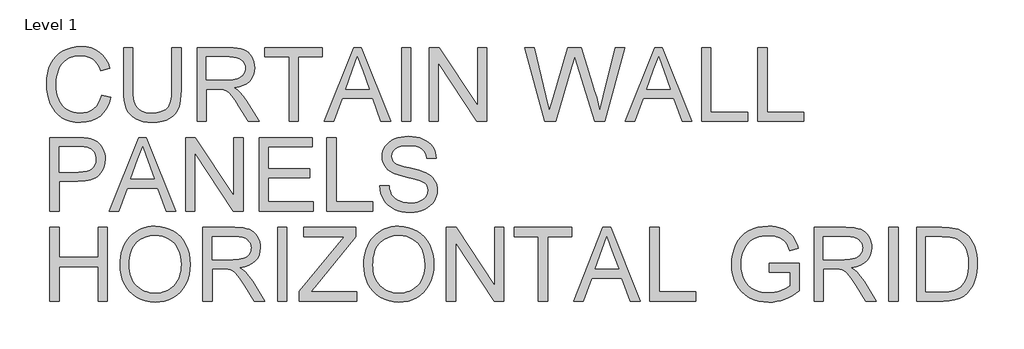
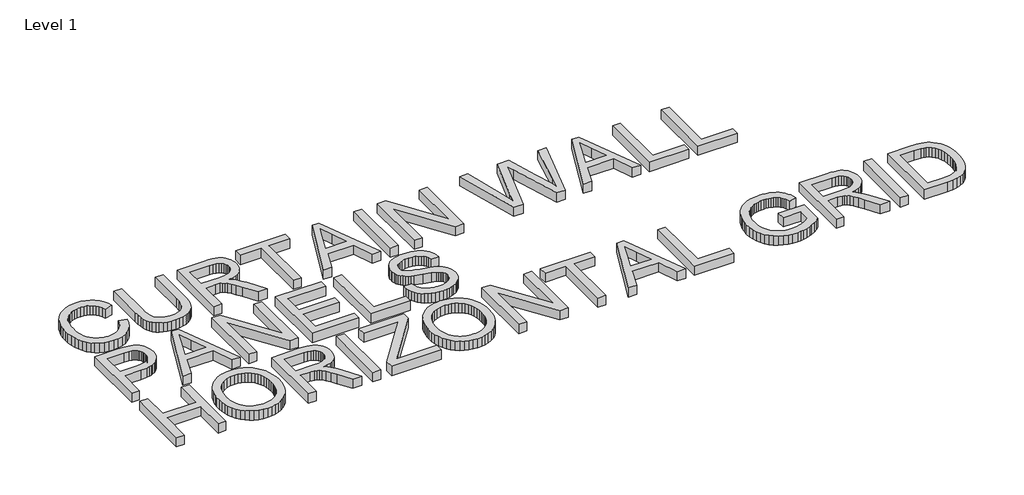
# One storey, part 9 of 27: 1 proxy.
"""IFC4 building model written with IfcOpenShell, lengths in millimetres."""

from ifc_helpers import new_model, si_unit, origin, origin_with_axes, place, context, project, spatial, polyline, outline, extrude, element, save

model = new_model("IFC4")

# Units and contexts
model_context = context("Model", 3, world=origin())
ifc_project = project(units=[si_unit("LENGTHUNIT", "METRE", prefix="MILLI")], contexts=[model_context])

# Site, building, storey
site = spatial("IfcSite", under=ifc_project)
building = spatial("IfcBuilding", under=site)
storey = spatial("IfcBuildingStorey", under=building, Name="Level 1", Elevation=0.0)

# Proxy
placement = place(None, origin())
element("IfcBuildingElementProxy", 1, Name="1000mm Arial", ObjectType="1000mm Arial", at=placement, inside=storey, context=model_context, shape_type="SweptSolid", body=[
    extrude(outline(polyline([(-28231.7417304, -17252.3211729), (-28109.317488, -17283.8836729), (-28133.5423045, -17360.017743), (-28165.8071897, -17426.5425862), (-28206.1121436, -17483.4582023), (-28254.457166, -17530.7645914), (-28309.7513185, -17567.953645), (-28370.9036623, -17594.5172548), (-28437.9141973, -17610.4554206), (-28510.7829236, -17615.7681426), (-28585.4375016, -17611.7481082), (-28652.7842849, -17599.6880052), (-28712.8232734, -17579.5878336), (-28765.5544672, -17551.4475933), (-28811.7026679, -17515.6857266), (-28851.9926774, -17472.7206757), (-28886.4244956, -17422.5524406), (-28914.9981225, -17365.1810213), (-28937.4370873, -17303.0871826), (-28953.4649194, -17238.751689), (-28963.0816186, -17172.1745405), (-28966.287185, -17103.3557372), (-28962.6631763, -17029.5156272), (-28951.7911504, -16960.5473802), (-28933.6711072, -16896.4509965), (-28908.3030467, -16837.2264759), (-28876.2548548, -16783.8526744), (-28838.0944175, -16737.3084479), (-28793.8217346, -16697.5937966), (-28743.4368062, -16664.7087202), (-28688.6507622, -16638.9222175), (-28631.1747323, -16620.503287), (-28571.0087167, -16609.4519287), (-28508.1527153, -16605.7681426), (-28438.1308906, -16610.5353952), (-28373.9224241, -16624.837153), (-28315.5273158, -16648.673416), (-28262.9455657, -16682.0441842), (-28217.0439469, -16724.0677401), (-28178.6892328, -16773.862366), (-28147.8814233, -16831.4280621), (-28124.6205183, -16896.7648282), (-28247.0447607, -16925.9362297), (-28266.3229923, -16877.7929561), (-28289.4867588, -16836.65859), (-28316.5360605, -16802.5331313), (-28347.4708971, -16775.4165801), (-28382.4706012, -16754.7559947), (-28421.7145051, -16739.9984337), (-28465.2026088, -16731.1438972), (-28512.9349123, -16728.192385), (-28567.8554556, -16731.465201), (-28618.0834681, -16741.2836492), (-28663.6189499, -16757.6477294), (-28704.4619009, -16780.5574418), (-28740.0967405, -16808.981625), (-28770.0078881, -16841.8891179), (-28794.1953437, -16879.2799205), (-28812.6591073, -16921.1540327), (-28826.3107852, -16965.6135202), (-28836.0619838, -17010.7604484), (-28841.9127029, -17056.5948175), (-28843.8629426, -17103.1166274), (-28841.5540381, -17161.5789854), (-28834.6273247, -17216.2155857), (-28823.0828023, -17267.0264285), (-28806.920471, -17314.0115138), (-28785.8788043, -17356.2368186), (-28759.6962759, -17392.7683201), (-28728.3728857, -17423.6060184), (-28691.9086338, -17448.7499134), (-28652.0744275, -17468.2597826), (-28610.6411741, -17482.1954034), (-28567.6088735, -17490.556776), (-28522.9775259, -17493.3439001), (-28469.7531681, -17489.5480313), (-28420.7879544, -17478.1604247), (-28376.0818849, -17459.1810805), (-28335.6349596, -17432.6099986), (-28300.4036179, -17398.5667339), (-28271.3442991, -17357.1708414), (-28248.4570033, -17308.4223211), (-28231.7417304, -17252.3211729)])), origin_with_axes(), (0.0, 0.0, 1.0), 150.0),
    extrude(outline(polyline([(-27298.256882, -16621.0711729), (-27175.8326395, -16621.0711729), (-27175.8326395, -17186.0877448), (-27177.9099063, -17256.0497921), (-27184.1417068, -17318.4051572), (-27194.5280408, -17373.1538403), (-27209.0689085, -17420.2958414), (-27229.0196365, -17461.6170121), (-27255.6355515, -17498.9032041), (-27288.9166535, -17532.1544174), (-27328.8629426, -17561.370652), (-27375.5192517, -17585.1695541), (-27428.9304141, -17602.1687699), (-27489.0964298, -17612.3682994), (-27556.0172986, -17615.7681426), (-27621.2868151, -17612.8091582), (-27680.3245311, -17603.9322051), (-27733.1304467, -17589.1372832), (-27779.7045619, -17568.4243926), (-27820.0543488, -17542.0998927), (-27854.1872797, -17510.470143), (-27882.1033545, -17473.5351436), (-27903.8025732, -17431.2948944), (-27920.0695151, -17382.2997921), (-27931.6887593, -17325.100233), (-27938.6603058, -17259.6962172), (-27940.9841547, -17186.0877448), (-27940.9841547, -16621.0711729), (-27818.5599123, -16621.0711729), (-27818.5599123, -17181.7837676), (-27817.0505313, -17240.9709272), (-27812.5223886, -17291.8041866), (-27804.975484, -17334.2835456), (-27794.4098176, -17368.4090043), (-27780.1678372, -17396.646383), (-27761.5919909, -17421.4615019), (-27738.6822785, -17442.8543612), (-27711.4387001, -17460.8249607), (-27680.3843086, -17475.0519967), (-27646.0421566, -17485.2141653), (-27608.4122442, -17491.3114664), (-27567.4945713, -17493.3439001), (-27500.020761, -17489.3238658), (-27442.9781177, -17477.2637628), (-27396.3666417, -17457.1635912), (-27376.9725913, -17444.0984796), (-27360.1863327, -17429.0233509), (-27345.6716177, -17411.0901122), (-27333.092198, -17389.450671), (-27313.7392446, -17335.0531804), (-27302.1274726, -17265.8308793), (-27298.256882, -17181.7837676), (-27298.256882, -16621.0711729)])), origin_with_axes(), (0.0, 0.0, 1.0), 150.0),
    extrude(outline(polyline([(-26961.5902153, -17600.4651122), (-26961.5902153, -16621.0711729), (-26539.5613327, -16621.0711729), (-26478.984347, -16622.7225252), (-26426.1335983, -16627.6765824), (-26381.0090866, -16635.9333444), (-26343.6108119, -16647.4928111), (-26311.7643689, -16663.2441724), (-26283.2953526, -16684.0766179), (-26258.2037629, -16709.9901478), (-26236.4895998, -16740.9847619), (-26218.9673312, -16775.3941635), (-26206.451425, -16811.5520559), (-26198.9418814, -16849.4584391), (-26196.4387001, -16889.113313), (-26200.5857616, -16939.4160474), (-26213.0269459, -16985.5941369), (-26233.762253, -17027.6475815), (-26262.7916831, -17065.5763812), (-26300.4888451, -17098.1700424), (-26347.2273483, -17124.2180715), (-26403.0071927, -17143.7204685), (-26467.8283782, -17156.6772335), (-26427.4785912, -17183.0390943), (-26398.2474123, -17209.0422903), (-26348.0941215, -17268.5208651), (-26299.0168251, -17335.0531804), (-26135.7047986, -17600.4651122), (-26277.9751585, -17600.4651122), (-26405.4207077, -17397.4608509), (-26456.4108829, -17319.98926), (-26497.4779994, -17263.081116), (-26531.7005964, -17223.8969896), (-26562.1572134, -17199.5974513), (-26590.9998389, -17185.3405265), (-26620.3804615, -17176.284241), (-26691.3960865, -17171.9802638), (-26839.1659729, -17171.9802638), (-26839.1659729, -17600.4651122), (-26961.5902153, -17600.4651122)]), holes=[polyline([(-26839.1659729, -17049.5560213), (-26565.1460865, -17049.5560213), (-26486.4490576, -17045.2221553), (-26425.3863801, -17032.2205573), (-26400.8327875, -17022.2526655), (-26379.4175117, -17009.6844541), (-26361.1405526, -16994.5159231), (-26346.0019104, -16976.7470725), (-26334.1286119, -16957.2521476), (-26325.6476845, -16936.905394), (-26320.559128, -16915.7068115), (-26318.8629426, -16893.6564001), (-26322.0983977, -16862.3479543), (-26331.8047631, -16833.9387155), (-26347.9820388, -16808.4286835), (-26370.6302248, -16785.8178585), (-26400.2723738, -16767.3017896), (-26437.4315387, -16754.0760261), (-26482.1077194, -16746.140568), (-26534.300916, -16743.4954153), (-26839.1659729, -16743.4954153), (-26839.1659729, -17049.5560213)])]), origin_with_axes(), (0.0, 0.0, 1.0), 150.0),
    extrude(outline(polyline([(-25737.347791, -17600.4651122), (-25737.347791, -16743.4954153), (-26058.7114274, -16743.4954153), (-26058.7114274, -16621.0711729), (-25293.5599123, -16621.0711729), (-25293.5599123, -16743.4954153), (-25614.9235486, -16743.4954153), (-25614.9235486, -17600.4651122), (-25737.347791, -17600.4651122)])), origin_with_axes(), (0.0, 0.0, 1.0), 150.0),
    extrude(outline(polyline([(-25269.8880373, -17600.4651122), (-24878.943435, -16621.0711729), (-24774.691541, -16621.0711729), (-24383.7469388, -17600.4651122), (-24513.1053668, -17600.4651122), (-24625.2478857, -17294.4045062), (-25028.6262001, -17294.4045062), (-25140.5296092, -17600.4651122), (-25269.8880373, -17600.4651122)]), holes=[polyline([(-24983.6735486, -17171.9802638), (-24669.9614274, -17171.9802638), (-24758.1929615, -16931.1966463), (-24826.817488, -16743.4954153), (-24887.7904994, -16910.1549797), (-24983.6735486, -17171.9802638)])]), origin_with_axes(), (0.0, 0.0, 1.0), 150.0),
    extrude(outline(polyline([(-24237.6508213, -17600.4651122), (-24237.6508213, -16621.0711729), (-24115.2265789, -16621.0711729), (-24115.2265789, -17600.4651122), (-24237.6508213, -17600.4651122)])), origin_with_axes(), (0.0, 0.0, 1.0), 150.0),
    extrude(outline(polyline([(-23870.3780941, -17600.4651122), (-23870.3780941, -16621.0711729), (-23739.3458971, -16621.0711729), (-23227.6508213, -17396.9826312), (-23227.6508213, -16621.0711729), (-23105.2265789, -16621.0711729), (-23105.2265789, -17600.4651122), (-23236.2587759, -17600.4651122), (-23747.9538516, -16824.3145441), (-23747.9538516, -17600.4651122), (-23870.3780941, -17600.4651122)])), origin_with_axes(), (0.0, 0.0, 1.0), 150.0),
    extrude(outline(polyline([(-22333.1408782, -17600.4651122), (-22600.2265789, -16621.0711729), (-22473.9765789, -16621.0711729), (-22319.0333971, -17264.754885), (-22271.2114274, -17463.4551691), (-22220.0419198, -17287.7094304), (-22025.8847229, -16621.0711729), (-21843.9221282, -16621.0711729), (-21702.8473176, -17104.3121766), (-21670.6422098, -17193.9185924), (-21642.4123034, -17283.644563), (-21618.1575981, -17373.4900886), (-21597.8780941, -17463.4551691), (-21551.4907835, -17270.4935213), (-21395.1129426, -16621.0711729), (-21268.8629426, -16621.0711729), (-21536.1877532, -17600.4651122), (-21666.9808403, -17600.4651122), (-21901.7867115, -16844.877991), (-21934.5447607, -16739.4305479), (-21971.3676774, -16866.3978774), (-22185.3709918, -17600.4651122), (-22333.1408782, -17600.4651122)])), origin_with_axes(), (0.0, 0.0, 1.0), 150.0),
    extrude(outline(polyline([(-21260.4940979, -17600.4651122), (-20869.5494956, -16621.0711729), (-20765.2976016, -16621.0711729), (-20374.3529994, -17600.4651122), (-20503.7114274, -17600.4651122), (-20615.8539463, -17294.4045062), (-21019.2322607, -17294.4045062), (-21131.1356698, -17600.4651122), (-21260.4940979, -17600.4651122)]), holes=[polyline([(-20974.2796092, -17171.9802638), (-20660.567488, -17171.9802638), (-20748.7990221, -16931.1966463), (-20817.4235486, -16743.4954153), (-20878.39656, -16910.1549797), (-20974.2796092, -17171.9802638)])]), origin_with_axes(), (0.0, 0.0, 1.0), 150.0),
    extrude(outline(polyline([(-20243.5599123, -17600.4651122), (-20243.5599123, -16621.0711729), (-20121.1356698, -16621.0711729), (-20121.1356698, -17478.0408698), (-19631.4387001, -17478.0408698), (-19631.4387001, -17600.4651122), (-20243.5599123, -17600.4651122)])), origin_with_axes(), (0.0, 0.0, 1.0), 150.0),
    extrude(outline(polyline([(-19493.7114274, -17600.4651122), (-19493.7114274, -16621.0711729), (-19371.287185, -16621.0711729), (-19371.287185, -17478.0408698), (-18881.5902153, -17478.0408698), (-18881.5902153, -17600.4651122), (-19493.7114274, -17600.4651122)])), origin_with_axes(), (0.0, 0.0, 1.0), 150.0),
    extrude(outline(polyline([(-28920.3780941, -18797.4348092), (-28920.3780941, -17818.0408698), (-28557.4093441, -17818.0408698), (-28472.8840126, -17820.3721908), (-28411.0741168, -17827.3661539), (-28377.0084356, -17834.7113096), (-28345.8270169, -17844.7912841), (-28317.5298608, -17857.6060776), (-28292.1169672, -17873.1556899), (-28269.3193376, -17891.761425), (-28248.8679733, -17913.7445867), (-28230.7628745, -17939.105175), (-28215.004041, -17967.8431899), (-28202.2415529, -17999.0096642), (-28193.1254899, -18031.6556307), (-28187.6558521, -18065.7810894), (-28185.8326395, -18101.3860403), (-28190.756808, -18161.5072228), (-28205.5293133, -18216.8163196), (-28230.1501555, -18267.3133308), (-28264.6193346, -18312.9982562), (-28286.2980049, -18333.2852324), (-28311.9406681, -18350.8672784), (-28341.5473242, -18365.7443943), (-28375.1179733, -18377.9165801), (-28412.6526154, -18387.3838356), (-28454.1512504, -18394.146161), (-28549.0404994, -18399.5560213), (-28797.9538516, -18399.5560213), (-28797.9538516, -18797.4348092), (-28920.3780941, -18797.4348092)]), holes=[polyline([(-28797.9538516, -18277.1317789), (-28541.8672039, -18277.1317789), (-28482.9864037, -18274.3222382), (-28433.3113327, -18265.893616), (-28392.8419909, -18251.8459124), (-28361.5783782, -18232.1791274), (-28338.2502236, -18207.4163137), (-28321.587256, -18178.0805242), (-28311.5894755, -18144.1717588), (-28308.256882, -18105.6900176), (-28310.222066, -18077.1163907), (-28316.1176182, -18050.6947524), (-28325.9435386, -18026.4251028), (-28339.699827, -18004.3074418), (-28356.6542097, -17985.059099), (-28376.0744127, -17969.3974039), (-28397.960436, -17957.3223566), (-28422.3122797, -17948.8339569), (-28469.5364748, -17942.5573234), (-28544.7365221, -17940.4651122), (-28797.9538516, -17940.4651122), (-28797.9538516, -18277.1317789)])]), origin_with_axes(), (0.0, 0.0, 1.0), 150.0),
    extrude(outline(polyline([(-28131.5547039, -18797.4348092), (-27740.6101016, -17818.0408698), (-27636.3582077, -17818.0408698), (-27245.4136054, -18797.4348092), (-27374.7720335, -18797.4348092), (-27486.9145524, -18491.3742032), (-27890.2928668, -18491.3742032), (-28002.1962759, -18797.4348092), (-28131.5547039, -18797.4348092)]), holes=[polyline([(-27845.3402153, -18368.9499607), (-27531.6280941, -18368.9499607), (-27619.8596282, -18128.1663433), (-27688.4841547, -17940.4651122), (-27749.457166, -18107.1246766), (-27845.3402153, -18368.9499607)])]), origin_with_axes(), (0.0, 0.0, 1.0), 150.0),
    extrude(outline(polyline([(-27114.6205183, -18797.4348092), (-27114.6205183, -17818.0408698), (-26983.5883213, -17818.0408698), (-26471.8932456, -18593.9523282), (-26471.8932456, -17818.0408698), (-26349.4690032, -17818.0408698), (-26349.4690032, -18797.4348092), (-26480.5012001, -18797.4348092), (-26992.1962759, -18021.284241), (-26992.1962759, -18797.4348092), (-27114.6205183, -18797.4348092)])), origin_with_axes(), (0.0, 0.0, 1.0), 150.0),
    extrude(outline(polyline([(-26135.2265789, -18797.4348092), (-26135.2265789, -17818.0408698), (-25431.287185, -17818.0408698), (-25431.287185, -17940.4651122), (-26012.8023365, -17940.4651122), (-26012.8023365, -18231.222688), (-25461.8932456, -18231.222688), (-25461.8932456, -18353.6469304), (-26012.8023365, -18353.6469304), (-26012.8023365, -18675.0105668), (-25415.9841547, -18675.0105668), (-25415.9841547, -18797.4348092), (-26135.2265789, -18797.4348092)])), origin_with_axes(), (0.0, 0.0, 1.0), 150.0),
    extrude(outline(polyline([(-25232.347791, -18797.4348092), (-25232.347791, -17818.0408698), (-25109.9235486, -17818.0408698), (-25109.9235486, -18675.0105668), (-24620.2265789, -18675.0105668), (-24620.2265789, -18797.4348092), (-25232.347791, -18797.4348092)])), origin_with_axes(), (0.0, 0.0, 1.0), 150.0),
    extrude(outline(polyline([(-24528.4083971, -18460.7681426), (-24405.9841547, -18460.7681426), (-24400.3800176, -18496.4029822), (-24391.9364511, -18528.7052283), (-24380.6534551, -18557.6748808), (-24366.5310297, -18583.3119399), (-24348.8518453, -18606.1319861), (-24326.8985723, -18626.6505999), (-24300.6712108, -18644.8677815), (-24270.1697607, -18660.7835308), (-24236.5150496, -18673.7029348), (-24200.8279047, -18682.9310805), (-24163.1083261, -18688.467968), (-24123.3563138, -18690.3135971), (-24055.1502295, -18684.7244044), (-24024.2303372, -18677.7379135), (-23995.4325448, -18667.9568263), (-23969.4667097, -18655.7323353), (-23947.0426892, -18641.4156331), (-23928.1604834, -18625.0067197), (-23912.8200922, -18606.5055952), (-23900.9467938, -18586.7117831), (-23892.4658663, -18566.4248069), (-23887.3773099, -18545.6446666), (-23885.6811244, -18524.3713622), (-23890.7622087, -18483.393912), (-23906.0054615, -18447.9757657), (-23918.8277271, -18432.2617653), (-23936.9701869, -18417.7582586), (-23960.4328408, -18404.4652454), (-23989.2156888, -18392.3827259), (-24053.8650141, -18373.1642718), (-24167.4720808, -18345.6367505), (-24284.4864629, -18314.7019139), (-24327.1899874, -18299.7949092), (-24359.3577342, -18285.2615138), (-24392.0485338, -18265.7591167), (-24420.3008569, -18244.0748424), (-24444.1147033, -18220.2086906), (-24463.4900732, -18194.1606615), (-24478.5016884, -18166.1997536), (-24489.2242707, -18136.5949655), (-24495.65782, -18105.3462971), (-24497.8023365, -18072.4537486), (-24495.1497116, -18035.9969689), (-24487.191837, -18000.7506828), (-24473.9287126, -17966.7148903), (-24455.3603384, -17933.8895914), (-24431.6959356, -17903.6123069), (-24403.1447252, -17877.2205573), (-24369.7067074, -17854.7143428), (-24331.381882, -17836.0936634), (-24289.4629366, -17821.5004904), (-24245.242559, -17811.0767955), (-24198.7207491, -17804.8225785), (-24149.897507, -17802.7378395), (-24096.6357882, -17804.9197169), (-24046.6020524, -17811.465349), (-23999.7962996, -17822.3747358), (-23956.2185297, -17837.6478774), (-23916.6757385, -17857.1502744), (-23881.9749217, -17880.7474276), (-23852.1160794, -17908.4393369), (-23827.0992115, -17940.2260024), (-23807.1185948, -17975.1808734), (-23792.368506, -18012.3773992), (-23782.8489452, -18051.8155798), (-23778.5599123, -18093.4954153), (-23900.9841547, -18093.4954153), (-23909.173667, -18054.4308438), (-23923.4604804, -18020.4473566), (-23943.844595, -17991.5449536), (-23970.3260107, -17967.723635), (-24003.3978917, -17949.1029555), (-24043.5534018, -17935.8024702), (-24090.7925413, -17927.822179), (-24145.11531, -17925.1620819), (-24201.1716251, -17927.7922903), (-24249.0683166, -17935.6829153), (-24288.8053846, -17948.8339569), (-24320.3828289, -17967.2454153), (-24344.4432574, -17989.3780206), (-24361.6292778, -18013.6925033), (-24371.94089, -18040.1888634), (-24375.3780941, -18068.8671009), (-24372.9421625, -18093.5402484), (-24365.6343677, -18115.9119636), (-24353.4547098, -18135.9822465), (-24336.4031888, -18153.7510971), (-24309.5631083, -18170.5784527), (-24267.3004426, -18187.5851407), (-24209.6151916, -18204.771161), (-24136.5073554, -18222.1365138), (-24001.529846, -18254.9543405), (-23954.0366523, -18269.7940954), (-23919.8738327, -18283.5877448), (-23882.3410587, -18304.4949122), (-23850.0836457, -18328.0023992), (-23823.1015937, -18354.1102058), (-23801.3949028, -18382.8183319), (-23784.7095187, -18413.9773341), (-23772.7913872, -18447.4377685), (-23765.6405083, -18483.1996352), (-23763.256882, -18521.2629342), (-23765.999173, -18559.5578709), (-23774.2260463, -18596.7319801), (-23787.9375016, -18632.785262), (-23807.1335391, -18667.7177164), (-23831.4779106, -18700.1768783), (-23860.6343677, -18728.8102827), (-23894.6029106, -18753.6179295), (-23933.3835391, -18774.5998187), (-23975.8479538, -18791.2852028), (-24020.867855, -18803.2033343), (-24068.4432426, -18810.3542132), (-24118.5741168, -18812.7378395), (-24181.1984806, -18810.1674086), (-24238.5175945, -18802.456116), (-24290.5314588, -18789.6039617), (-24337.2400732, -18771.6109456), (-24378.9273809, -18748.447179), (-24415.8773247, -18720.0827732), (-24448.0899046, -18686.5177283), (-24475.5651206, -18647.7520441), (-24497.6977259, -18605.0410474), (-24513.8824738, -18559.6400649), (-24524.1193642, -18511.5490966), (-24528.4083971, -18460.7681426)])), origin_with_axes(), (0.0, 0.0, 1.0), 150.0),
    extrude(outline(polyline([(-28920.3780941, -19994.4045062), (-28920.3780941, -19015.0105668), (-28797.9538516, -19015.0105668), (-28797.9538516, -19412.8893547), (-28277.6508213, -19412.8893547), (-28277.6508213, -19015.0105668), (-28155.2265789, -19015.0105668), (-28155.2265789, -19994.4045062), (-28277.6508213, -19994.4045062), (-28277.6508213, -19535.3135971), (-28797.9538516, -19535.3135971), (-28797.9538516, -19994.4045062), (-28920.3780941, -19994.4045062)])), origin_with_axes(), (0.0, 0.0, 1.0), 150.0),
    extrude(outline(polyline([(-27986.8932456, -19517.6194683), (-27984.8533397, -19458.5331831), (-27978.733622, -19402.7421305), (-27968.5340925, -19350.2463105), (-27954.2547513, -19301.045723), (-27935.8955982, -19255.1403682), (-27913.4566334, -19212.530246), (-27886.9378567, -19173.2153564), (-27856.3392683, -19137.1956994), (-27822.516433, -19104.9719112), (-27786.3249158, -19077.0446281), (-27747.7647166, -19053.4138501), (-27706.8358356, -19034.0795772), (-27663.5382725, -19019.0418094), (-27617.8720275, -19008.3005467), (-27569.8371006, -19001.855789), (-27519.4334918, -18999.7075365), (-27453.5437842, -19003.7425152), (-27390.9717257, -19015.8474513), (-27331.7173164, -19036.0223447), (-27275.7805562, -19064.2671956), (-27224.7306035, -19099.730175), (-27180.1366168, -19141.5594541), (-27141.998596, -19189.7550329), (-27110.316541, -19244.3169115), (-27085.4192281, -19304.0047074), (-27067.6354331, -19367.5780384), (-27056.9651561, -19435.0369044), (-27053.4083971, -19506.3813054), (-27057.1519607, -19578.6672015), (-27068.3826514, -19647.0376738), (-27087.1004692, -19711.4927223), (-27113.3054141, -19772.0323471), (-27146.3772951, -19827.057501), (-27185.6959208, -19874.9691369), (-27231.2612913, -19915.7672548), (-27283.0734066, -19949.4518547), (-27339.0923608, -19975.8137155), (-27397.278248, -19994.643616), (-27457.6310682, -20005.9415564), (-27520.1508213, -20009.7075365), (-27587.1912451, -20005.5455307), (-27650.5852437, -19993.0595133), (-27710.3328171, -19972.2494843), (-27766.4339653, -19943.1154437), (-27817.4241405, -19906.7856911), (-27861.8387948, -19864.3885261), (-27899.6779284, -19815.9239487), (-27930.941541, -19761.3919588), (-27955.4204118, -19702.9819062), (-27972.9053195, -19642.8831402), (-27983.3962641, -19581.0956609), (-27986.8932456, -19517.6194683)]), holes=[polyline([(-27864.4690032, -19518.8150176), (-27862.9390737, -19560.53595), (-27858.3492855, -19599.9778667), (-27850.6996384, -19637.1407677), (-27839.9901324, -19672.024653), (-27826.2207676, -19704.6295225), (-27809.391544, -19734.9553762), (-27789.5024615, -19763.0022142), (-27766.5535202, -19788.7700365), (-27741.2956744, -19811.8590812), (-27714.4798785, -19831.8695867), (-27686.1061325, -19848.8015528), (-27656.1744364, -19862.6549797), (-27624.6847902, -19873.4298672), (-27591.6371939, -19881.1262155), (-27557.0316474, -19885.7440244), (-27520.8681509, -19887.2832941), (-27484.0433662, -19885.7290801), (-27448.8886143, -19881.066438), (-27415.4038953, -19873.2953679), (-27383.5892091, -19862.4158698), (-27353.4445558, -19848.4279437), (-27324.9699353, -19831.3315895), (-27298.1653477, -19811.1268073), (-27273.0307929, -19787.8135971), (-27250.2499757, -19761.642277), (-27230.5066008, -19732.863165), (-27213.8006682, -19701.4762613), (-27200.1321779, -19667.4815658), (-27189.5011299, -19630.8790786), (-27181.9075241, -19591.6687995), (-27177.3513607, -19549.8507287), (-27175.8326395, -19505.424866), (-27178.4329591, -19449.3984397), (-27186.2339179, -19397.0483272), (-27199.2355159, -19348.3745287), (-27217.4377532, -19303.3770441), (-27240.6388807, -19262.6461758), (-27268.6371495, -19226.7722264), (-27301.4325596, -19195.7551957), (-27339.0251111, -19169.5950838), (-27380.2491434, -19148.8298879), (-27423.9389961, -19133.9976051), (-27470.094669, -19125.0982355), (-27518.7161623, -19122.1317789), (-27587.0268571, -19127.8479987), (-27650.4059113, -19144.9966582), (-27708.8533249, -19173.5777573), (-27762.3690979, -19213.591296), (-27786.2987632, -19238.367186), (-27807.0378064, -19266.9650975), (-27824.5862277, -19299.3850304), (-27838.9440268, -19335.6269849), (-27850.111204, -19375.6909608), (-27858.0877591, -19419.5769582), (-27862.8736921, -19467.2849772), (-27864.4690032, -19518.8150176)])]), origin_with_axes(), (0.0, 0.0, 1.0), 150.0),
    extrude(outline(polyline([(-26885.0750638, -19994.4045062), (-26885.0750638, -19015.0105668), (-26463.0461812, -19015.0105668), (-26402.4691955, -19016.6619192), (-26349.6184468, -19021.6159764), (-26304.4939351, -19029.8727383), (-26267.0956604, -19041.4322051), (-26235.2492174, -19057.1835663), (-26206.7802011, -19078.0160119), (-26181.6886114, -19103.9295417), (-26159.9744482, -19134.9241558), (-26142.4521797, -19169.3335574), (-26129.9362735, -19205.4914498), (-26122.4267298, -19243.397833), (-26119.9235486, -19283.0527069), (-26124.0706101, -19333.3554413), (-26136.5117944, -19379.5335308), (-26157.2471015, -19421.5869754), (-26186.2765316, -19459.5157751), (-26223.9736936, -19492.1094363), (-26270.7121968, -19518.1574655), (-26326.4920412, -19537.6598625), (-26391.3132266, -19550.6166274), (-26350.9634397, -19576.9784882), (-26321.7322607, -19602.9816842), (-26271.57897, -19662.460259), (-26222.5016736, -19728.9925744), (-26059.1896471, -19994.4045062), (-26201.460007, -19994.4045062), (-26328.9055562, -19791.4002448), (-26379.8957314, -19713.9286539), (-26420.9628479, -19657.02051), (-26455.1854449, -19617.8363836), (-26485.6420619, -19593.5368452), (-26514.4846873, -19579.2799205), (-26543.86531, -19570.223635), (-26614.880935, -19565.9196577), (-26762.6508213, -19565.9196577), (-26762.6508213, -19994.4045062), (-26885.0750638, -19994.4045062)]), holes=[polyline([(-26762.6508213, -19443.4954153), (-26488.630935, -19443.4954153), (-26409.9339061, -19439.1615493), (-26348.8712285, -19426.1599513), (-26324.317636, -19416.1920595), (-26302.9023602, -19403.623848), (-26284.6254011, -19388.455317), (-26269.4867588, -19370.6864664), (-26257.6134604, -19351.1915416), (-26249.132533, -19330.8447879), (-26244.0439765, -19309.6462054), (-26242.347791, -19287.5957941), (-26245.5832462, -19256.2873483), (-26255.2896116, -19227.8781094), (-26271.4668873, -19202.3680774), (-26294.1150732, -19179.7572524), (-26323.7572223, -19161.2411835), (-26360.9163872, -19148.01542), (-26405.5925679, -19140.0799619), (-26457.7857645, -19137.4348092), (-26762.6508213, -19137.4348092), (-26762.6508213, -19443.4954153)])]), origin_with_axes(), (0.0, 0.0, 1.0), 150.0),
    extrude(outline(polyline([(-25890.3780941, -19994.4045062), (-25890.3780941, -19015.0105668), (-25767.9538516, -19015.0105668), (-25767.9538516, -19994.4045062), (-25890.3780941, -19994.4045062)])), origin_with_axes(), (0.0, 0.0, 1.0), 150.0),
    extrude(outline(polyline([(-25599.6205183, -19994.4045062), (-25599.6205183, -19867.4371766), (-25098.6853857, -19254.1204153), (-25003.519666, -19137.4348092), (-25538.4083971, -19137.4348092), (-25538.4083971, -19015.0105668), (-24849.7720335, -19015.0105668), (-24849.7720335, -19137.4348092), (-25398.050916, -19808.6161539), (-25449.6986433, -19871.9802638), (-24834.4690032, -19871.9802638), (-24834.4690032, -19994.4045062), (-25599.6205183, -19994.4045062)])), origin_with_axes(), (0.0, 0.0, 1.0), 150.0),
    extrude(outline(polyline([(-24742.6508213, -19517.6194683), (-24740.6109155, -19458.5331831), (-24734.4911978, -19402.7421305), (-24724.2916683, -19350.2463105), (-24710.012327, -19301.045723), (-24691.653174, -19255.1403682), (-24669.2142091, -19212.530246), (-24642.6954325, -19173.2153564), (-24612.0968441, -19137.1956994), (-24578.2740088, -19104.9719112), (-24542.0824916, -19077.0446281), (-24503.5222924, -19053.4138501), (-24462.5934113, -19034.0795772), (-24419.2958483, -19019.0418094), (-24373.6296033, -19008.3005467), (-24325.5946764, -19001.855789), (-24275.1910676, -18999.7075365), (-24209.3013599, -19003.7425152), (-24146.7293015, -19015.8474513), (-24087.4748921, -19036.0223447), (-24031.538132, -19064.2671956), (-23980.4881793, -19099.730175), (-23935.8941926, -19141.5594541), (-23897.7561717, -19189.7550329), (-23866.0741168, -19244.3169115), (-23841.1768038, -19304.0047074), (-23823.3930088, -19367.5780384), (-23812.7227319, -19435.0369044), (-23809.1659729, -19506.3813054), (-23812.9095364, -19578.6672015), (-23824.1402271, -19647.0376738), (-23842.8580449, -19711.4927223), (-23869.0629899, -19772.0323471), (-23902.1348708, -19827.057501), (-23941.4534965, -19874.9691369), (-23987.018867, -19915.7672548), (-24038.8309823, -19949.4518547), (-24094.8499365, -19975.8137155), (-24153.0358237, -19994.643616), (-24213.3886439, -20005.9415564), (-24275.9083971, -20009.7075365), (-24342.9488209, -20005.5455307), (-24406.3428195, -19993.0595133), (-24466.0903928, -19972.2494843), (-24522.191541, -19943.1154437), (-24573.1817162, -19906.7856911), (-24617.5963706, -19864.3885261), (-24655.4355041, -19815.9239487), (-24686.6991168, -19761.3919588), (-24711.1779875, -19702.9819062), (-24728.6628952, -19642.8831402), (-24739.1538398, -19581.0956609), (-24742.6508213, -19517.6194683)]), holes=[polyline([(-24620.2265789, -19518.8150176), (-24618.6966495, -19560.53595), (-24614.1068612, -19599.9778667), (-24606.4572141, -19637.1407677), (-24595.7477082, -19672.024653), (-24581.9783434, -19704.6295225), (-24565.1491198, -19734.9553762), (-24545.2600373, -19763.0022142), (-24522.311096, -19788.7700365), (-24497.0532502, -19811.8590812), (-24470.2374543, -19831.8695867), (-24441.8637083, -19848.8015528), (-24411.9320122, -19862.6549797), (-24380.4423659, -19873.4298672), (-24347.3947696, -19881.1262155), (-24312.7892232, -19885.7440244), (-24276.6257266, -19887.2832941), (-24239.8009419, -19885.7290801), (-24204.6461901, -19881.066438), (-24171.1614711, -19873.2953679), (-24139.3467849, -19862.4158698), (-24109.2021316, -19848.4279437), (-24080.7275111, -19831.3315895), (-24053.9229235, -19811.1268073), (-24028.7883687, -19787.8135971), (-24006.0075515, -19761.642277), (-23986.2641766, -19732.863165), (-23969.558244, -19701.4762613), (-23955.8897536, -19667.4815658), (-23945.2587056, -19630.8790786), (-23937.6650999, -19591.6687995), (-23933.1089364, -19549.8507287), (-23931.5902153, -19505.424866), (-23934.1905349, -19449.3984397), (-23941.9914937, -19397.0483272), (-23954.9930917, -19348.3745287), (-23973.1953289, -19303.3770441), (-23996.3964564, -19262.6461758), (-24024.3947252, -19226.7722264), (-24057.1901354, -19195.7551957), (-24094.7826869, -19169.5950838), (-24136.0067192, -19148.8298879), (-24179.6965718, -19133.9976051), (-24225.8522448, -19125.0982355), (-24274.473738, -19122.1317789), (-24342.7844329, -19127.8479987), (-24406.1634871, -19144.9966582), (-24464.6109007, -19173.5777573), (-24518.1266736, -19213.591296), (-24542.0563389, -19238.367186), (-24562.7953822, -19266.9650975), (-24580.3438034, -19299.3850304), (-24594.7016026, -19335.6269849), (-24605.8687797, -19375.6909608), (-24613.8453348, -19419.5769582), (-24618.6312679, -19467.2849772), (-24620.2265789, -19518.8150176)])]), origin_with_axes(), (0.0, 0.0, 1.0), 150.0),
    extrude(outline(polyline([(-23640.8326395, -19994.4045062), (-23640.8326395, -19015.0105668), (-23509.8004426, -19015.0105668), (-22998.1053668, -19790.9220251), (-22998.1053668, -19015.0105668), (-22875.6811244, -19015.0105668), (-22875.6811244, -19994.4045062), (-23006.7133213, -19994.4045062), (-23518.4083971, -19218.253938), (-23518.4083971, -19994.4045062), (-23640.8326395, -19994.4045062)])), origin_with_axes(), (0.0, 0.0, 1.0), 150.0),
    extrude(outline(polyline([(-22416.5902153, -19994.4045062), (-22416.5902153, -19137.4348092), (-22737.9538516, -19137.4348092), (-22737.9538516, -19015.0105668), (-21972.8023365, -19015.0105668), (-21972.8023365, -19137.4348092), (-22294.1659729, -19137.4348092), (-22294.1659729, -19994.4045062), (-22416.5902153, -19994.4045062)])), origin_with_axes(), (0.0, 0.0, 1.0), 150.0),
    extrude(outline(polyline([(-21949.1304615, -19994.4045062), (-21558.1858592, -19015.0105668), (-21453.9339653, -19015.0105668), (-21062.989363, -19994.4045062), (-21192.347791, -19994.4045062), (-21304.49031, -19688.3439001), (-21707.8686244, -19688.3439001), (-21819.7720335, -19994.4045062), (-21949.1304615, -19994.4045062)]), holes=[polyline([(-21662.9159729, -19565.9196577), (-21349.2038516, -19565.9196577), (-21437.4353857, -19325.1360403), (-21506.0599123, -19137.4348092), (-21567.0329236, -19304.0943736), (-21662.9159729, -19565.9196577)])]), origin_with_axes(), (0.0, 0.0, 1.0), 150.0),
    extrude(outline(polyline([(-20932.1962759, -19994.4045062), (-20932.1962759, -19015.0105668), (-20809.7720335, -19015.0105668), (-20809.7720335, -19871.9802638), (-20320.0750638, -19871.9802638), (-20320.0750638, -19994.4045062), (-20932.1962759, -19994.4045062)])), origin_with_axes(), (0.0, 0.0, 1.0), 150.0),
    extrude(outline(polyline([(-19340.6811244, -19611.8287486), (-19340.6811244, -19489.4045062), (-18942.8023365, -19489.4045062), (-18942.8023365, -19855.4816842), (-18990.7662777, -19891.4826608), (-19039.4923815, -19922.7313291), (-19088.9806479, -19949.2276892), (-19139.231077, -19970.971741), (-19190.1838913, -19987.9186515), (-19241.7793133, -20000.0235876), (-19294.017343, -20007.2865493), (-19346.8979804, -20009.7075365), (-19417.2186924, -20005.8593624), (-19484.2366997, -19994.31484), (-19547.9520021, -19975.0739694), (-19608.3645998, -19948.1367505), (-19663.5242529, -19913.9066813), (-19711.4807219, -19872.7872595), (-19752.2340067, -19824.7784852), (-19785.7841073, -19769.8803585), (-19811.9890523, -19709.8488421), (-19830.7068701, -19646.4398992), (-19841.9375608, -19579.6535296), (-19845.6811244, -19509.4897335), (-19841.9525052, -19439.3184651), (-19830.7666476, -19371.5532396), (-19812.1235516, -19306.194057), (-19786.0232172, -19243.2409172), (-19752.9289197, -19185.4585278), (-19713.3039345, -19135.6115966), (-19667.1482616, -19093.7001235), (-19614.4619009, -19059.7241085), (-19556.3880964, -19033.4668582), (-19494.0700922, -19014.7116795), (-19427.5078881, -19003.4585722), (-19356.7014842, -18999.7075365), (-19305.0089239, -19001.8819417), (-19255.8569056, -19008.4051572), (-19209.2454295, -19019.2771832), (-19165.1744956, -19034.4980194), (-19124.6827372, -19053.5969186), (-19088.8087877, -19076.1031331), (-19057.5526472, -19102.0166629), (-19030.9143157, -19131.3375081), (-19008.0419642, -19164.7306929), (-18988.0837641, -19202.8612415), (-18971.0397152, -19245.729154), (-18956.9098176, -19293.3344304), (-19069.769666, -19325.1360403), (-19094.9658663, -19260.6062699), (-19109.6038724, -19234.28177), (-19125.6018157, -19211.917527), (-19144.0730515, -19192.5496293), (-19166.130935, -19175.2141653), (-19191.7754662, -19159.911135), (-19221.0066452, -19146.6405384), (-19252.8755047, -19135.9179561), (-19286.4330775, -19128.2589688), (-19321.6793636, -19123.6635764), (-19358.614363, -19122.1317789), (-19402.3938818, -19123.7831313), (-19443.1098057, -19128.7371885), (-19480.7621347, -19136.9939504), (-19515.3508687, -19148.5534172), (-19546.8087581, -19162.7953975), (-19575.0685534, -19179.0997003), (-19600.1302543, -19197.4663256), (-19621.9938611, -19217.8952732), (-19658.009782, -19262.9375909), (-19684.9993062, -19312.2241085), (-19701.7369956, -19357.505536), (-19713.692488, -19404.6400649), (-19720.8657835, -19453.6276951), (-19723.256882, -19504.4684266), (-19720.3800916, -19565.5983538), (-19711.7497205, -19621.5425862), (-19697.3657687, -19672.3011237), (-19677.2282361, -19717.8739664), (-19651.5986492, -19758.0892541), (-19620.7385344, -19792.7751265), (-19584.6478917, -19821.9315836), (-19543.326721, -19845.5586255), (-19498.7103177, -19863.813168), (-19452.7339771, -19876.8521269), (-19405.3976993, -19884.6755023), (-19356.7014842, -19887.2832941), (-19314.0427928, -19885.31811), (-19271.9071542, -19879.4225578), (-19230.2945684, -19869.5966375), (-19189.2050354, -19855.840349), (-19117.3824146, -19823.3512983), (-19065.2265789, -19788.7700365), (-19065.2265789, -19611.8287486), (-19340.6811244, -19611.8287486)])), origin_with_axes(), (0.0, 0.0, 1.0), 150.0),
    extrude(outline(polyline([(-18743.8629426, -19994.4045062), (-18743.8629426, -19015.0105668), (-18321.83406, -19015.0105668), (-18261.2570743, -19016.6619192), (-18208.4063256, -19021.6159764), (-18163.2818139, -19029.8727383), (-18125.8835391, -19041.4322051), (-18094.0370962, -19057.1835663), (-18065.5680799, -19078.0160119), (-18040.4764901, -19103.9295417), (-18018.762327, -19134.9241558), (-18001.2400584, -19169.3335574), (-17988.7241523, -19205.4914498), (-17981.2146086, -19243.397833), (-17978.7114274, -19283.0527069), (-17982.8584888, -19333.3554413), (-17995.2996731, -19379.5335308), (-18016.0349803, -19421.5869754), (-18045.0644104, -19459.5157751), (-18082.7615724, -19492.1094363), (-18129.5000756, -19518.1574655), (-18185.2799199, -19537.6598625), (-18250.1011054, -19550.6166274), (-18209.7513185, -19576.9784882), (-18180.5201395, -19602.9816842), (-18130.3668488, -19662.460259), (-18081.2895524, -19728.9925744), (-17917.9775259, -19994.4045062), (-18060.2478857, -19994.4045062), (-18187.693435, -19791.4002448), (-18238.6836102, -19713.9286539), (-18279.7507266, -19657.02051), (-18313.9733237, -19617.8363836), (-18344.4299407, -19593.5368452), (-18373.2725661, -19579.2799205), (-18402.6531888, -19570.223635), (-18473.6688138, -19565.9196577), (-18621.4387001, -19565.9196577), (-18621.4387001, -19994.4045062), (-18743.8629426, -19994.4045062)]), holes=[polyline([(-18621.4387001, -19443.4954153), (-18347.4188138, -19443.4954153), (-18268.7217849, -19439.1615493), (-18207.6591073, -19426.1599513), (-18183.1055148, -19416.1920595), (-18161.690239, -19403.623848), (-18143.4132799, -19388.455317), (-18128.2746376, -19370.6864664), (-18116.4013392, -19351.1915416), (-18107.9204118, -19330.8447879), (-18102.8318553, -19309.6462054), (-18101.1356698, -19287.5957941), (-18104.371125, -19256.2873483), (-18114.0774904, -19227.8781094), (-18130.2547661, -19202.3680774), (-18152.902952, -19179.7572524), (-18182.5451011, -19161.2411835), (-18219.7042659, -19148.01542), (-18264.3804467, -19140.0799619), (-18316.5736433, -19137.4348092), (-18621.4387001, -19137.4348092), (-18621.4387001, -19443.4954153)])]), origin_with_axes(), (0.0, 0.0, 1.0), 150.0),
    extrude(outline(polyline([(-17749.1659729, -19994.4045062), (-17749.1659729, -19015.0105668), (-17626.7417304, -19015.0105668), (-17626.7417304, -19994.4045062), (-17749.1659729, -19994.4045062)])), origin_with_axes(), (0.0, 0.0, 1.0), 150.0),
    extrude(outline(polyline([(-17381.8932456, -19994.4045062), (-17381.8932456, -19015.0105668), (-17044.0310297, -19015.0105668), (-16943.0668962, -19018.5374371), (-16869.2417304, -19029.1180479), (-16828.6827224, -19040.7597086), (-16791.1723649, -19056.3167931), (-16756.710658, -19075.7893014), (-16725.2976016, -19099.1772335), (-16688.9977378, -19134.2068263), (-16657.5697371, -19173.7795062), (-16631.0135995, -19217.8952732), (-16609.3293251, -19266.5541274), (-16592.4870252, -19319.3077377), (-16580.4568109, -19375.7077732), (-16573.2386824, -19435.7542339), (-16570.8326395, -19499.4471198), (-16572.4615754, -19553.583084), (-16577.3483829, -19604.565787), (-16585.4930621, -19652.3952288), (-16596.895613, -19697.0714096), (-16626.6647891, -19775.8282159), (-16644.3290292, -19809.6248986), (-16663.8463706, -19839.7004342), (-16706.6470335, -19890.1227235), (-16753.2734539, -19928.5297429), (-16806.8041713, -19957.0137036), (-16870.3177248, -19977.6668168), (-16943.9336694, -19990.2200838), (-17027.77156, -19994.4045062), (-17381.8932456, -19994.4045062)]), holes=[polyline([(-17259.4690032, -19871.9802638), (-17042.8354804, -19871.9802638), (-16953.2290647, -19867.5567316), (-16916.5406473, -19862.0273163), (-16885.2620903, -19854.286135), (-16833.9730278, -19832.945581), (-16812.72214, -19819.5404851), (-16794.4003479, -19804.3121766), (-16771.8119394, -19779.7660563), (-16751.8686836, -19751.3194565), (-16734.5705805, -19718.9723773), (-16719.9176301, -19682.7248187), (-16708.2535528, -19642.5020589), (-16699.922069, -19598.229376), (-16694.9231787, -19549.90677), (-16693.256882, -19497.534241), (-16696.5222258, -19426.4588386), (-16706.3182574, -19364.1109456), (-16722.6449768, -19310.4905621), (-16745.5023838, -19265.597688), (-16773.0373773, -19228.4161066), (-16803.3968559, -19197.9296009), (-16836.5808196, -19174.138171), (-16872.5892683, -19157.0418168), (-16903.7034373, -19148.463751), (-16943.0071187, -19142.3365611), (-17046.1830183, -19137.4348092), (-17259.4690032, -19137.4348092), (-17259.4690032, -19871.9802638)])]), origin_with_axes(), (0.0, 0.0, 1.0), 150.0),
])

save(model, "model.ifc")
